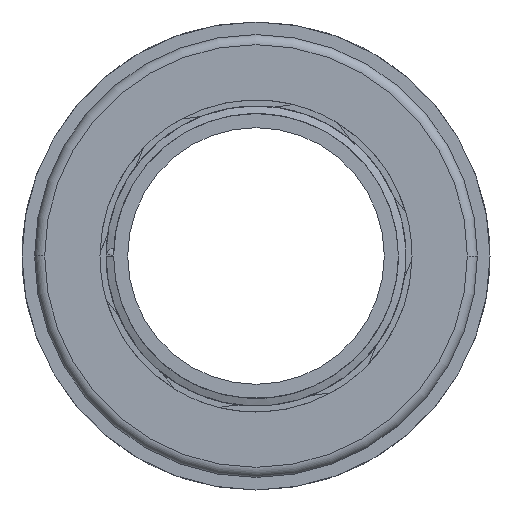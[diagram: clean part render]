
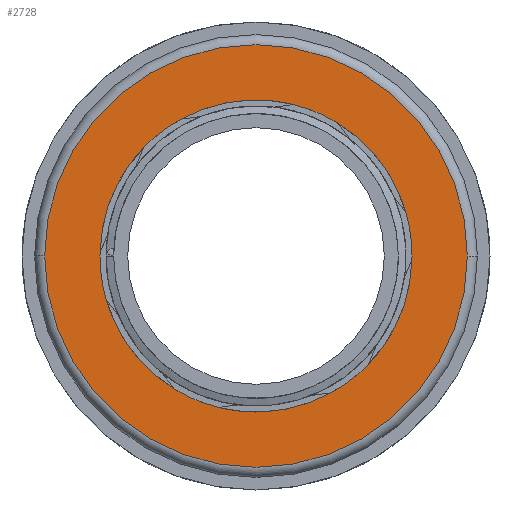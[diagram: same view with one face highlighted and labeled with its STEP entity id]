
A CAD part, left-side view. The second image highlights one B-rep face of the part: STEP entity #2728.
In plain terms, the highlighted planar face has unit normal (-1, 0, 0).
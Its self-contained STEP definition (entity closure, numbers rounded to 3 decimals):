
#23 = CIRCLE ( 'NONE', #3092, 31. ) ;
#588 = EDGE_LOOP ( 'NONE', ( #1891, #1883 ) ) ;
#808 = CARTESIAN_POINT ( 'NONE',  ( 5.929, -42., 0. ) ) ;
#822 = CARTESIAN_POINT ( 'NONE',  ( 5.929, -31., 0. ) ) ;
#1421 = CIRCLE ( 'NONE', #2045, 42. ) ;
#1429 = FACE_BOUND ( 'NONE', #588, .T. ) ;
#1745 = VERTEX_POINT ( 'NONE', #808 ) ;
#1810 = CARTESIAN_POINT ( 'NONE',  ( 5.929, 0., 0. ) ) ;
#1883 = ORIENTED_EDGE ( 'NONE', *, *, #5411, .F. ) ;
#1891 = ORIENTED_EDGE ( 'NONE', *, *, #1951, .F. ) ;
#1951 = EDGE_CURVE ( 'NONE', #5706, #5776, #23, .T. ) ;
#2045 = AXIS2_PLACEMENT_3D ( 'NONE', #6687, #6110, #3200 ) ;
#2247 = DIRECTION ( 'NONE',  ( -1., 0., 0. ) ) ;
#2395 = DIRECTION ( 'NONE',  ( 0., -1., 0. ) ) ;
#2575 = CARTESIAN_POINT ( 'NONE',  ( 5.929, 0., 0. ) ) ;
#2728 = ADVANCED_FACE ( 'NONE', ( #1429, #3172 ), #3676, .F. ) ;
#2864 = AXIS2_PLACEMENT_3D ( 'NONE', #1810, #4009, #2395 ) ;
#3092 = AXIS2_PLACEMENT_3D ( 'NONE', #4132, #2247, #6468 ) ;
#3106 = AXIS2_PLACEMENT_3D ( 'NONE', #3140, #7106, #6150 ) ;
#3140 = CARTESIAN_POINT ( 'NONE',  ( 5.929, 31., 0. ) ) ;
#3172 = FACE_OUTER_BOUND ( 'NONE', #5174, .T. ) ;
#3200 = DIRECTION ( 'NONE',  ( 0., -1., 0. ) ) ;
#3469 = VERTEX_POINT ( 'NONE', #6988 ) ;
#3500 = EDGE_CURVE ( 'NONE', #3469, #1745, #6773, .T. ) ;
#3676 = PLANE ( 'NONE',  #3106 ) ;
#3689 = ORIENTED_EDGE ( 'NONE', *, *, #3500, .T. ) ;
#4009 = DIRECTION ( 'NONE',  ( -1., 0., 0. ) ) ;
#4132 = CARTESIAN_POINT ( 'NONE',  ( 5.929, 0., 0. ) ) ;
#4266 = CARTESIAN_POINT ( 'NONE',  ( 5.929, 31., 0. ) ) ;
#4344 = DIRECTION ( 'NONE',  ( 0., -1., 0. ) ) ;
#4505 = CIRCLE ( 'NONE', #6699, 31. ) ;
#4929 = DIRECTION ( 'NONE',  ( -1., 0., 0. ) ) ;
#5174 = EDGE_LOOP ( 'NONE', ( #7319, #3689 ) ) ;
#5411 = EDGE_CURVE ( 'NONE', #5776, #5706, #4505, .T. ) ;
#5706 = VERTEX_POINT ( 'NONE', #822 ) ;
#5776 = VERTEX_POINT ( 'NONE', #4266 ) ;
#6110 = DIRECTION ( 'NONE',  ( -1., 0., 0. ) ) ;
#6150 = DIRECTION ( 'NONE',  ( 0., 1., 0. ) ) ;
#6468 = DIRECTION ( 'NONE',  ( 0., -1., 0. ) ) ;
#6687 = CARTESIAN_POINT ( 'NONE',  ( 5.929, 0., 0. ) ) ;
#6699 = AXIS2_PLACEMENT_3D ( 'NONE', #2575, #4929, #4344 ) ;
#6773 = CIRCLE ( 'NONE', #2864, 42. ) ;
#6988 = CARTESIAN_POINT ( 'NONE',  ( 5.929, 42., 0. ) ) ;
#7037 = EDGE_CURVE ( 'NONE', #1745, #3469, #1421, .T. ) ;
#7106 = DIRECTION ( 'NONE',  ( 1., 0., 0. ) ) ;
#7319 = ORIENTED_EDGE ( 'NONE', *, *, #7037, .T. ) ;
